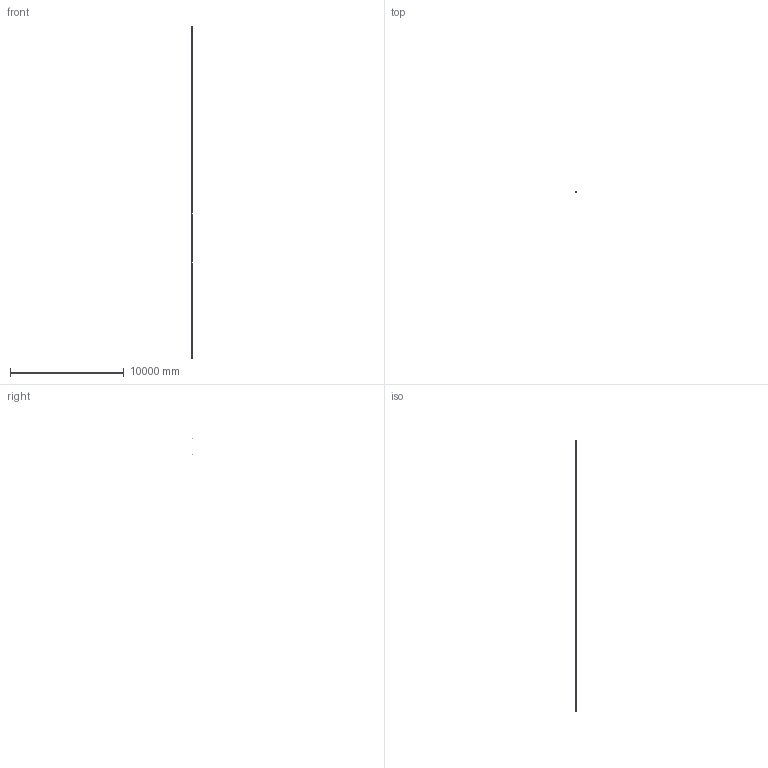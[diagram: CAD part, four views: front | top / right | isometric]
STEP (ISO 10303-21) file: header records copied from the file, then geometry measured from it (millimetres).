
FILE_DESCRIPTION(('Creo Elements/Direct Modeling STEP Export'),'2;1');
FILE_NAME('F-288.stp','2011-11-18T13:09:03',(''),(''),'Creo Elements/Direct Modeling STEP processor for AP214 (Solid Model)','Creo Elements/Direct Modeling 17.0C 05-Feb-2011 (C) Parametric Technology GmbH','');
FILE_SCHEMA(('AUTOMOTIVE_DESIGN { 1 0 10303 214 1 1 1 1 }'));
Length unit declared in the file: millimetre
Products named in the file (5): Modulo_izq_(K); Modulos_intermedio_(FL-14); Modulo_der_(22E); CABEZA; F-288
Assembly tree (21 placements, depth 2):
  F-288
    CABEZA
    Modulo_der_(22E)
    Modulos_intermedio_(FL-14)  x18
    Modulo_izq_(K)
Bounding box: 51.5 x 87.95 x 29135.6 mm (x, y, z)
Volume: 74140383.4 mm3; surface area: 8491312.8 mm2
Topology: 22 solids, 185 shells, 11731 faces, 32785 edges, 20883 vertices
Faces by surface type: cylinder 5156, plane 4307, cone 932, torus 615, bspline 521, extrusion 190, sphere 10
Entity records: 107646 total; most frequent: CARTESIAN_POINT 34236, ORIENTED_EDGE 15792, DIRECTION 13574, EDGE_CURVE 7890, VERTEX_POINT 5105, AXIS2_PLACEMENT_3D 4786, VECTOR 4002, LINE 3982
